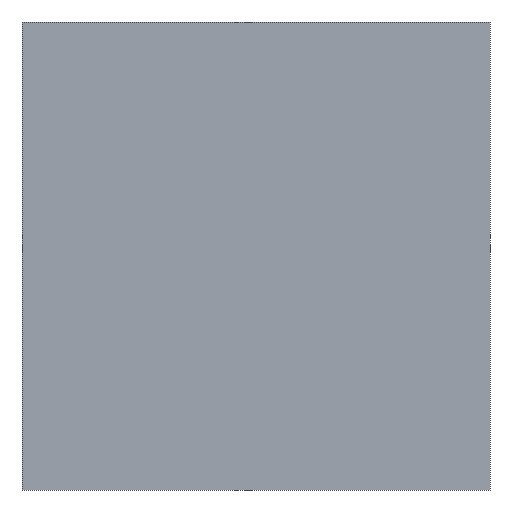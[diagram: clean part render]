
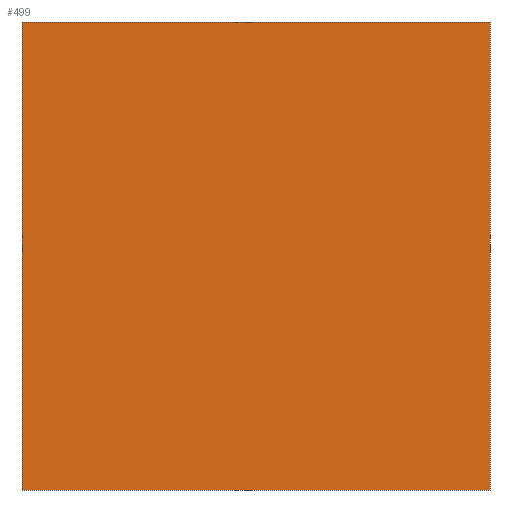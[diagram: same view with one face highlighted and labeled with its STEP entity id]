
A CAD part, front view. The second image highlights one B-rep face of the part: STEP entity #499.
In plain terms, the highlighted planar face has unit normal (0, -1, 0).
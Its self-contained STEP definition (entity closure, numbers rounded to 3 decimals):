
#16 = CARTESIAN_POINT ( 'NONE',  ( 0., 0., 0. ) ) ;
#27 = DIRECTION ( 'NONE',  ( 0., 0., -1. ) ) ;
#81 = LINE ( 'NONE', #117, #582 ) ;
#93 = VERTEX_POINT ( 'NONE', #135 ) ;
#112 = EDGE_CURVE ( 'NONE', #93, #232, #555, .T. ) ;
#117 = CARTESIAN_POINT ( 'NONE',  ( -900., 0., 900. ) ) ;
#128 = LINE ( 'NONE', #399, #491 ) ;
#135 = CARTESIAN_POINT ( 'NONE',  ( 0., 0., 0. ) ) ;
#142 = ORIENTED_EDGE ( 'NONE', *, *, #439, .T. ) ;
#166 = CARTESIAN_POINT ( 'NONE',  ( 0., 0., 900. ) ) ;
#182 = DIRECTION ( 'NONE',  ( -1., 0., 0. ) ) ;
#202 = VERTEX_POINT ( 'NONE', #603 ) ;
#229 = DIRECTION ( 'NONE',  ( 0., -1., 0. ) ) ;
#232 = VERTEX_POINT ( 'NONE', #511 ) ;
#249 = EDGE_CURVE ( 'NONE', #202, #293, #262, .T. ) ;
#262 = LINE ( 'NONE', #448, #513 ) ;
#271 = PLANE ( 'NONE',  #541 ) ;
#293 = VERTEX_POINT ( 'NONE', #401 ) ;
#354 = DIRECTION ( 'NONE',  ( 1., 0., 0. ) ) ;
#393 = EDGE_CURVE ( 'NONE', #202, #93, #128, .T. ) ;
#399 = CARTESIAN_POINT ( 'NONE',  ( 0., 0., 900. ) ) ;
#401 = CARTESIAN_POINT ( 'NONE',  ( -900., 0., 900. ) ) ;
#407 = VECTOR ( 'NONE', #454, 1000. ) ;
#428 = ORIENTED_EDGE ( 'NONE', *, *, #249, .T. ) ;
#439 = EDGE_CURVE ( 'NONE', #293, #232, #81, .T. ) ;
#448 = CARTESIAN_POINT ( 'NONE',  ( 0., 0., 900. ) ) ;
#454 = DIRECTION ( 'NONE',  ( -1., 0., 0. ) ) ;
#491 = VECTOR ( 'NONE', #498, 1000. ) ;
#496 = FACE_OUTER_BOUND ( 'NONE', #519, .T. ) ;
#498 = DIRECTION ( 'NONE',  ( 0., 0., -1. ) ) ;
#499 = ADVANCED_FACE ( 'NONE', ( #496 ), #271, .T. ) ;
#511 = CARTESIAN_POINT ( 'NONE',  ( -900., 0., 0. ) ) ;
#513 = VECTOR ( 'NONE', #182, 1000. ) ;
#519 = EDGE_LOOP ( 'NONE', ( #611, #619, #428, #142 ) ) ;
#541 = AXIS2_PLACEMENT_3D ( 'NONE', #166, #229, #354 ) ;
#555 = LINE ( 'NONE', #16, #407 ) ;
#582 = VECTOR ( 'NONE', #27, 1000. ) ;
#603 = CARTESIAN_POINT ( 'NONE',  ( 0., 0., 900. ) ) ;
#611 = ORIENTED_EDGE ( 'NONE', *, *, #112, .F. ) ;
#619 = ORIENTED_EDGE ( 'NONE', *, *, #393, .F. ) ;
